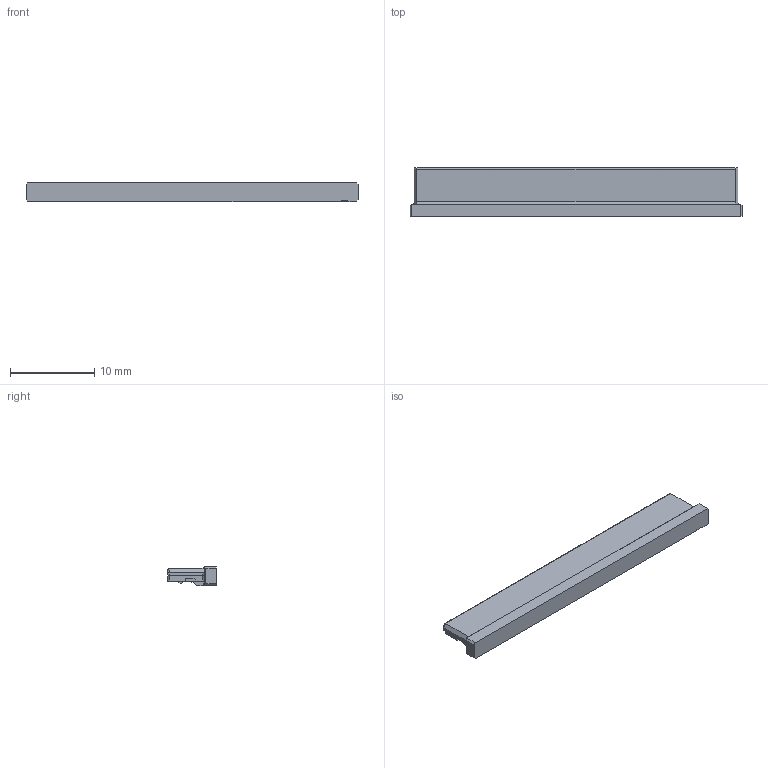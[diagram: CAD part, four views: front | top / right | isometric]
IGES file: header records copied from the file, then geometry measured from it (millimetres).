
Start section: Elysium IGES Interface
Global section: file name: T:\3D_USER\3D_(‹¤’Ê)NCW‹Z\DF14\DF14-30S-1.25C.igs; native system: CoCreate Modeling 16.00B  02-Dec-2008; preprocessor: CoCreate IGES_3D V2.2; author: Unknown; organization: Unknown; date: 20100406.103529; units: millimetre
Bounding box: 39.45 x 5.8 x 2.3 mm (x, y, z)
Volume: 401.2 mm3; surface area: 658.6 mm2
Topology: 1 solids, 1 shells, 307 faces, 891 edges, 588 vertices
Faces by surface type: bspline 307
